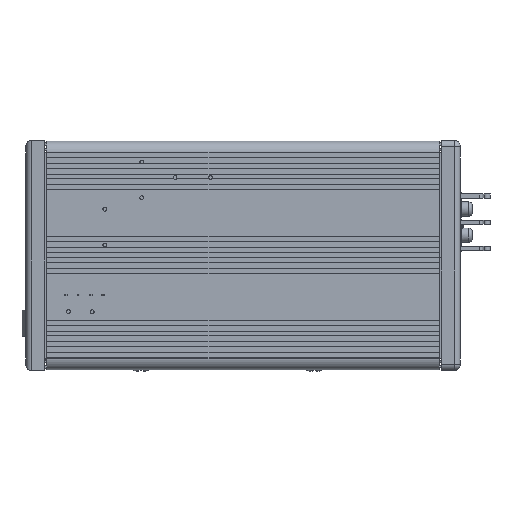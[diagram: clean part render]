
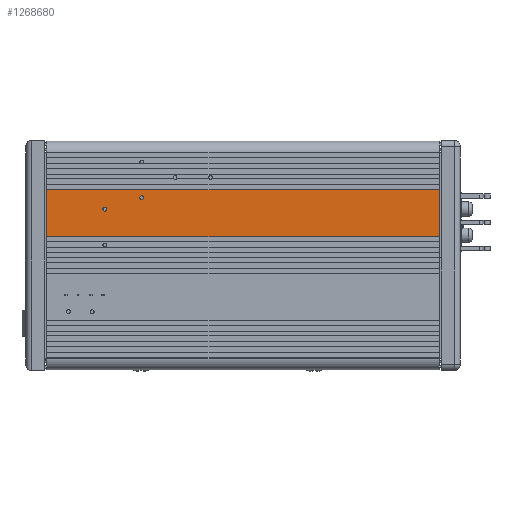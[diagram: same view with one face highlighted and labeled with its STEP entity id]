
A CAD part, front view. The second image highlights one B-rep face of the part: STEP entity #1268680.
In plain terms, the highlighted planar face has unit normal (0, -1, 0) as drawn and (1, 0, 0) by its records, which use the part's own axes.
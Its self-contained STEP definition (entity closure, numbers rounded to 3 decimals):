
#1252910=CARTESIAN_POINT('',(38.193,49.73,0.));
#1252920=VERTEX_POINT('',#1252910);
#1252950=CARTESIAN_POINT('',(38.193,49.73,0.));
#1252960=DIRECTION('',(0.,1.,0.));
#1252970=VECTOR('',#1252960,1.);
#1252980=LINE('',#1252950,#1252970);
#1252990=CARTESIAN_POINT('',(38.193,69.48,0.));
#1253000=VERTEX_POINT('',#1252990);
#1253010=EDGE_CURVE('',#1252920,#1253000,#1252980,.T.);
#1259580=CARTESIAN_POINT('',(38.193,69.48,165.));
#1259590=VERTEX_POINT('',#1259580);
#1259620=CARTESIAN_POINT('',(38.193,69.48,165.));
#1259630=DIRECTION('',(0.,-1.,0.));
#1259640=VECTOR('',#1259630,1.);
#1259650=LINE('',#1259620,#1259640);
#1259660=CARTESIAN_POINT('',(38.193,49.73,165.));
#1259670=VERTEX_POINT('',#1259660);
#1259680=EDGE_CURVE('',#1259590,#1259670,#1259650,.T.);
#1268420=CARTESIAN_POINT('',(38.193,69.48,0.));
#1268430=DIRECTION('',(0.,0.,1.));
#1268440=VECTOR('',#1268430,1.);
#1268450=LINE('',#1268420,#1268440);
#1268460=EDGE_CURVE('',#1253000,#1259590,#1268450,.T.);
#1268520=CARTESIAN_POINT('',(38.193,67.48,0.));
#1268530=DIRECTION('',(1.,-0.,0.));
#1268540=DIRECTION('',(0.,0.,-1.));
#1268550=AXIS2_PLACEMENT_3D('',#1268520,#1268530,#1268540);
#1268560=PLANE('',#1268550);
#1268570=ORIENTED_EDGE('',*,*,#1268460,.T.);
#1268580=ORIENTED_EDGE('',*,*,#1253010,.T.);
#1268590=CARTESIAN_POINT('',(38.193,49.73,0.));
#1268600=DIRECTION('',(0.,0.,1.));
#1268610=VECTOR('',#1268600,1.);
#1268620=LINE('',#1268590,#1268610);
#1268630=EDGE_CURVE('',#1252920,#1259670,#1268620,.T.);
#1268640=ORIENTED_EDGE('',*,*,#1268630,.F.);
#1268650=ORIENTED_EDGE('',*,*,#1259680,.T.);
#1268660=EDGE_LOOP('',(#1268650,#1268640,#1268580,#1268570));
#1268670=FACE_OUTER_BOUND('',#1268660,.T.);
#1268680=ADVANCED_FACE('',(#1268670),#1268560,.T.);
